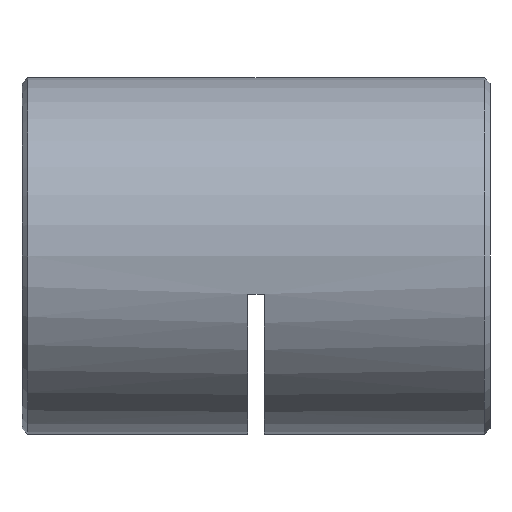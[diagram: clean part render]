
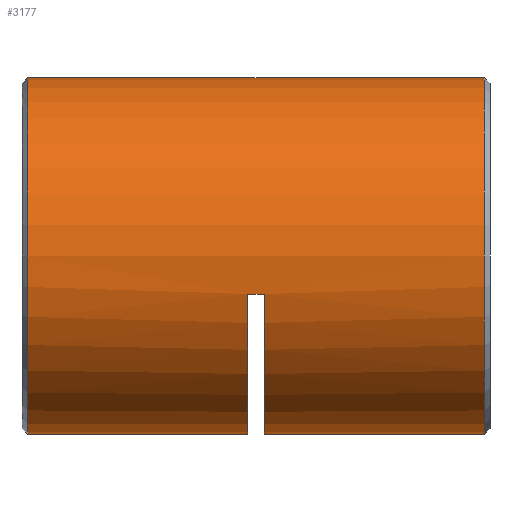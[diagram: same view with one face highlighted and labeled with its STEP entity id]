
A CAD part, left-side view. The second image highlights one B-rep face of the part: STEP entity #3177.
In plain terms, the highlighted cylindrical face has radius 16 mm (diameter 32 mm), a partial arc.
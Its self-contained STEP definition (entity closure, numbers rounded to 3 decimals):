
#37 = CYLINDRICAL_SURFACE ( 'NONE', #3624, 16. ) ;
#87 = AXIS2_PLACEMENT_3D ( 'NONE', #5644, #3240, #909 ) ;
#218 = EDGE_CURVE ( 'NONE', #2984, #2393, #810, .T. ) ;
#239 = EDGE_CURVE ( 'NONE', #1285, #2984, #2553, .T. ) ;
#247 = AXIS2_PLACEMENT_3D ( 'NONE', #1291, #1794, #5150 ) ;
#267 = LINE ( 'NONE', #3910, #2545 ) ;
#307 = VERTEX_POINT ( 'NONE', #1360 ) ;
#549 = DIRECTION ( 'NONE',  ( 0., -1., 0. ) ) ;
#590 = EDGE_CURVE ( 'NONE', #2393, #1158, #2274, .T. ) ;
#616 = CARTESIAN_POINT ( 'NONE',  ( 0., 42.5, -16. ) ) ;
#716 = DIRECTION ( 'NONE',  ( 0., 0., -1. ) ) ;
#786 = DIRECTION ( 'NONE',  ( 0., -1., 0. ) ) ;
#810 = CIRCLE ( 'NONE', #4561, 16. ) ;
#857 = CIRCLE ( 'NONE', #87, 16. ) ;
#909 = DIRECTION ( 'NONE',  ( 0., 0., -1. ) ) ;
#950 = CARTESIAN_POINT ( 'NONE',  ( 0., 42.5, -16. ) ) ;
#1075 = DIRECTION ( 'NONE',  ( 0., -1., 0. ) ) ;
#1158 = VERTEX_POINT ( 'NONE', #2631 ) ;
#1285 = VERTEX_POINT ( 'NONE', #6122 ) ;
#1291 = CARTESIAN_POINT ( 'NONE',  ( 0., 22., 0. ) ) ;
#1360 = CARTESIAN_POINT ( 'NONE',  ( 0., 0.75, 16. ) ) ;
#1488 = VECTOR ( 'NONE', #549, 1000. ) ;
#1763 = DIRECTION ( 'NONE',  ( 0., 1., 0. ) ) ;
#1786 = CARTESIAN_POINT ( 'NONE',  ( 0., 20.5, 0. ) ) ;
#1794 = DIRECTION ( 'NONE',  ( 0., -1., 0. ) ) ;
#1895 = DIRECTION ( 'NONE',  ( 0., 0., -1. ) ) ;
#1954 = CARTESIAN_POINT ( 'NONE',  ( 0., 41.75, 16. ) ) ;
#1990 = ORIENTED_EDGE ( 'NONE', *, *, #4539, .F. ) ;
#2170 = FACE_OUTER_BOUND ( 'NONE', #5563, .T. ) ;
#2274 = LINE ( 'NONE', #950, #5774 ) ;
#2393 = VERTEX_POINT ( 'NONE', #2957 ) ;
#2407 = EDGE_CURVE ( 'NONE', #4055, #307, #267, .T. ) ;
#2496 = CARTESIAN_POINT ( 'NONE',  ( -15.632, 20.5, -3.413 ) ) ;
#2545 = VECTOR ( 'NONE', #1075, 1000. ) ;
#2553 = LINE ( 'NONE', #3180, #6203 ) ;
#2631 = CARTESIAN_POINT ( 'NONE',  ( 0., 0.75, -16. ) ) ;
#2688 = DIRECTION ( 'NONE',  ( 0., -1., 0. ) ) ;
#2768 = CARTESIAN_POINT ( 'NONE',  ( 0., 41.75, -16. ) ) ;
#2817 = ORIENTED_EDGE ( 'NONE', *, *, #590, .T. ) ;
#2957 = CARTESIAN_POINT ( 'NONE',  ( 0., 20.5, -16. ) ) ;
#2984 = VERTEX_POINT ( 'NONE', #2496 ) ;
#3177 = ADVANCED_FACE ( 'NONE', ( #2170 ), #37, .T. ) ;
#3180 = CARTESIAN_POINT ( 'NONE',  ( -15.632, 21.25, -3.413 ) ) ;
#3216 = CARTESIAN_POINT ( 'NONE',  ( 0., 0.75, 0. ) ) ;
#3240 = DIRECTION ( 'NONE',  ( 0., -1., 0. ) ) ;
#3390 = EDGE_CURVE ( 'NONE', #4533, #5844, #3791, .T. ) ;
#3574 = ORIENTED_EDGE ( 'NONE', *, *, #3973, .T. ) ;
#3624 = AXIS2_PLACEMENT_3D ( 'NONE', #4862, #5265, #1895 ) ;
#3775 = ORIENTED_EDGE ( 'NONE', *, *, #218, .T. ) ;
#3791 = LINE ( 'NONE', #616, #1488 ) ;
#3910 = CARTESIAN_POINT ( 'NONE',  ( 0., 42.5, 16. ) ) ;
#3973 = EDGE_CURVE ( 'NONE', #4055, #4533, #857, .T. ) ;
#4055 = VERTEX_POINT ( 'NONE', #1954 ) ;
#4259 = CIRCLE ( 'NONE', #247, 16. ) ;
#4313 = AXIS2_PLACEMENT_3D ( 'NONE', #3216, #1763, #4722 ) ;
#4533 = VERTEX_POINT ( 'NONE', #2768 ) ;
#4539 = EDGE_CURVE ( 'NONE', #1285, #5844, #4259, .T. ) ;
#4561 = AXIS2_PLACEMENT_3D ( 'NONE', #1786, #2688, #716 ) ;
#4722 = DIRECTION ( 'NONE',  ( 0., 0., 1. ) ) ;
#4735 = CARTESIAN_POINT ( 'NONE',  ( 0., 22., -16. ) ) ;
#4862 = CARTESIAN_POINT ( 'NONE',  ( 0., 42.5, 0. ) ) ;
#5150 = DIRECTION ( 'NONE',  ( 0., 0., -1. ) ) ;
#5265 = DIRECTION ( 'NONE',  ( 0., -1., 0. ) ) ;
#5338 = ORIENTED_EDGE ( 'NONE', *, *, #5395, .T. ) ;
#5362 = CIRCLE ( 'NONE', #4313, 16. ) ;
#5395 = EDGE_CURVE ( 'NONE', #1158, #307, #5362, .T. ) ;
#5563 = EDGE_LOOP ( 'NONE', ( #6216, #3574, #5578, #1990, #5715, #3775, #2817, #5338 ) ) ;
#5578 = ORIENTED_EDGE ( 'NONE', *, *, #3390, .T. ) ;
#5644 = CARTESIAN_POINT ( 'NONE',  ( 0., 41.75, 0. ) ) ;
#5715 = ORIENTED_EDGE ( 'NONE', *, *, #239, .T. ) ;
#5774 = VECTOR ( 'NONE', #6198, 1000. ) ;
#5844 = VERTEX_POINT ( 'NONE', #4735 ) ;
#6122 = CARTESIAN_POINT ( 'NONE',  ( -15.632, 22., -3.413 ) ) ;
#6198 = DIRECTION ( 'NONE',  ( 0., -1., 0. ) ) ;
#6203 = VECTOR ( 'NONE', #786, 1000. ) ;
#6216 = ORIENTED_EDGE ( 'NONE', *, *, #2407, .F. ) ;
